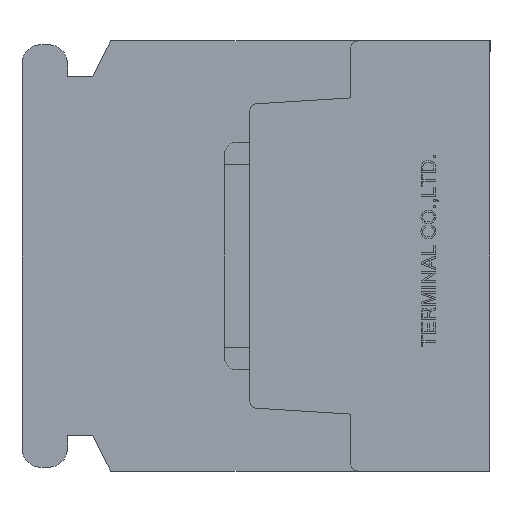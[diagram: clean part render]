
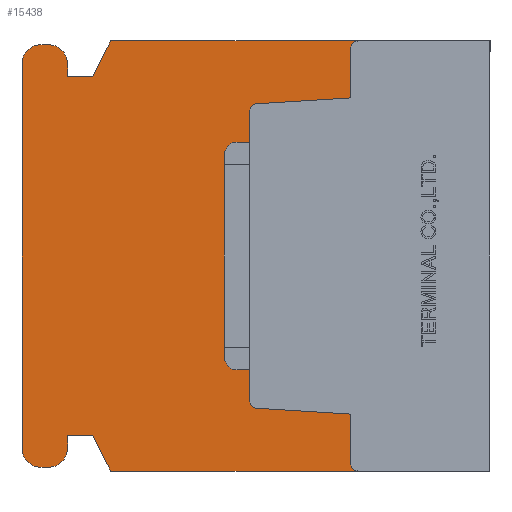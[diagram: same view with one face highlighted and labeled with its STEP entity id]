
A CAD part, left-side view. The second image highlights one B-rep face of the part: STEP entity #15438.
In plain terms, the highlighted planar face has unit normal (-1, 0, 0).
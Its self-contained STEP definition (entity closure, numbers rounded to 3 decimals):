
#959=CIRCLE('',#16394,0.3);
#961=CIRCLE('',#16398,0.3);
#963=CIRCLE('',#16403,0.3);
#965=CIRCLE('',#16406,0.3);
#974=CIRCLE('',#16563,0.75);
#975=CIRCLE('',#16564,0.75);
#976=CIRCLE('',#16565,0.75);
#977=CIRCLE('',#16566,0.75);
#1549=VERTEX_POINT('',#22091);
#1550=VERTEX_POINT('',#22093);
#1573=VERTEX_POINT('',#22143);
#1574=VERTEX_POINT('',#22145);
#2119=VERTEX_POINT('',#24019);
#2120=VERTEX_POINT('',#24020);
#2123=VERTEX_POINT('',#24028);
#2137=VERTEX_POINT('',#24058);
#2139=VERTEX_POINT('',#24064);
#2141=VERTEX_POINT('',#24070);
#2143=VERTEX_POINT('',#24076);
#2145=VERTEX_POINT('',#24085);
#2492=VERTEX_POINT('',#25627);
#2493=VERTEX_POINT('',#25629);
#2494=VERTEX_POINT('',#25631);
#2495=VERTEX_POINT('',#25633);
#2496=VERTEX_POINT('',#25635);
#2497=VERTEX_POINT('',#25637);
#2498=VERTEX_POINT('',#25639);
#2499=VERTEX_POINT('',#25641);
#2500=VERTEX_POINT('',#25643);
#2501=VERTEX_POINT('',#25645);
#2502=VERTEX_POINT('',#25647);
#2503=VERTEX_POINT('',#25649);
#3143=VECTOR('',#17650,1.);
#3168=VECTOR('',#17679,1.);
#3696=VECTOR('',#19174,1.);
#3713=VECTOR('',#19198,1.);
#3717=VECTOR('',#19209,1.);
#3720=VECTOR('',#19213,1.);
#3724=VECTOR('',#19230,1.);
#4137=VECTOR('',#19808,1.);
#4138=VECTOR('',#19809,1.);
#4139=VECTOR('',#19810,1.);
#4140=VECTOR('',#19813,1.);
#4141=VECTOR('',#19816,1.);
#4142=VECTOR('',#19819,1.);
#4143=VECTOR('',#19822,1.);
#4144=VECTOR('',#19823,1.);
#4145=VECTOR('',#19824,1.);
#4781=LINE('',#22092,#3143);
#4806=LINE('',#22144,#3168);
#5334=LINE('',#24018,#3696);
#5351=LINE('',#24057,#3713);
#5355=LINE('',#24069,#3717);
#5358=LINE('',#24075,#3720);
#5362=LINE('',#24090,#3724);
#5775=LINE('',#25626,#4137);
#5776=LINE('',#25628,#4138);
#5777=LINE('',#25630,#4139);
#5778=LINE('',#25634,#4140);
#5779=LINE('',#25638,#4141);
#5780=LINE('',#25642,#4142);
#5781=LINE('',#25646,#4143);
#5782=LINE('',#25648,#4144);
#5783=LINE('',#25650,#4145);
#6610=EDGE_CURVE('',#1549,#1550,#4781,.T.);
#6636=EDGE_CURVE('',#1573,#1574,#4806,.T.);
#7473=EDGE_CURVE('',#2119,#2120,#5334,.T.);
#7477=EDGE_CURVE('',#2123,#2119,#959,.T.);
#7492=EDGE_CURVE('',#2137,#2123,#5351,.T.);
#7495=EDGE_CURVE('',#2139,#2137,#961,.T.);
#7498=EDGE_CURVE('',#2141,#2139,#5355,.T.);
#7501=EDGE_CURVE('',#2143,#2141,#5358,.T.);
#7504=EDGE_CURVE('',#1550,#2143,#963,.T.);
#7506=EDGE_CURVE('',#2145,#1573,#965,.T.);
#7509=EDGE_CURVE('',#2120,#2145,#5362,.T.);
#8033=EDGE_CURVE('',#2492,#1549,#5775,.T.);
#8034=EDGE_CURVE('',#2493,#2492,#5776,.T.);
#8035=EDGE_CURVE('',#2494,#2493,#5777,.T.);
#8036=EDGE_CURVE('',#2495,#2494,#974,.T.);
#8037=EDGE_CURVE('',#2496,#2495,#5778,.T.);
#8038=EDGE_CURVE('',#2497,#2496,#975,.T.);
#8039=EDGE_CURVE('',#2498,#2497,#5779,.T.);
#8040=EDGE_CURVE('',#2499,#2498,#976,.T.);
#8041=EDGE_CURVE('',#2500,#2499,#5780,.T.);
#8042=EDGE_CURVE('',#2501,#2500,#977,.T.);
#8043=EDGE_CURVE('',#2502,#2501,#5781,.T.);
#8044=EDGE_CURVE('',#2503,#2502,#5782,.T.);
#8045=EDGE_CURVE('',#1574,#2503,#5783,.T.);
#12498=ORIENTED_EDGE('',*,*,#7504,.F.);
#12499=ORIENTED_EDGE('',*,*,#6610,.F.);
#12500=ORIENTED_EDGE('',*,*,#8033,.F.);
#12501=ORIENTED_EDGE('',*,*,#8034,.F.);
#12502=ORIENTED_EDGE('',*,*,#8035,.F.);
#12503=ORIENTED_EDGE('',*,*,#8036,.F.);
#12504=ORIENTED_EDGE('',*,*,#8037,.F.);
#12505=ORIENTED_EDGE('',*,*,#8038,.F.);
#12506=ORIENTED_EDGE('',*,*,#8039,.F.);
#12507=ORIENTED_EDGE('',*,*,#8040,.F.);
#12508=ORIENTED_EDGE('',*,*,#8041,.F.);
#12509=ORIENTED_EDGE('',*,*,#8042,.F.);
#12510=ORIENTED_EDGE('',*,*,#8043,.F.);
#12511=ORIENTED_EDGE('',*,*,#8044,.F.);
#12512=ORIENTED_EDGE('',*,*,#8045,.F.);
#12513=ORIENTED_EDGE('',*,*,#6636,.F.);
#12514=ORIENTED_EDGE('',*,*,#7506,.F.);
#12515=ORIENTED_EDGE('',*,*,#7509,.F.);
#12516=ORIENTED_EDGE('',*,*,#7473,.F.);
#12517=ORIENTED_EDGE('',*,*,#7477,.F.);
#12518=ORIENTED_EDGE('',*,*,#7492,.F.);
#12519=ORIENTED_EDGE('',*,*,#7495,.F.);
#12520=ORIENTED_EDGE('',*,*,#7498,.F.);
#12521=ORIENTED_EDGE('',*,*,#7501,.F.);
#13593=EDGE_LOOP('',(#12498,#12499,#12500,#12501,#12502,#12503,#12504,#12505,
#12506,#12507,#12508,#12509,#12510,#12511,#12512,#12513,#12514,#12515,#12516,
#12517,#12518,#12519,#12520,#12521));
#14565=FACE_BOUND('',#13593,.T.);
#15438=ADVANCED_FACE('',(#14565),#26364,.F.);
#16394=AXIS2_PLACEMENT_3D('',#24027,#19180,#19181);
#16398=AXIS2_PLACEMENT_3D('',#24063,#19203,#19204);
#16403=AXIS2_PLACEMENT_3D('',#24081,#19218,#19219);
#16406=AXIS2_PLACEMENT_3D('',#24084,#19224,#19225);
#16562=AXIS2_PLACEMENT_3D('',#25625,#19807,$);
#16563=AXIS2_PLACEMENT_3D('',#25632,#19811,#19812);
#16564=AXIS2_PLACEMENT_3D('',#25636,#19814,#19815);
#16565=AXIS2_PLACEMENT_3D('',#25640,#19817,#19818);
#16566=AXIS2_PLACEMENT_3D('',#25644,#19820,#19821);
#17650=DIRECTION('',(0.,-1.,0.));
#17679=DIRECTION('',(0.,1.,0.));
#19174=DIRECTION('',(0.,-0.998,-0.062));
#19180=DIRECTION('',(-1.,0.,0.));
#19181=DIRECTION('',(0.,0.,-0.3));
#19198=DIRECTION('',(0.,0.,-1.));
#19203=DIRECTION('',(-1.,0.,0.));
#19204=DIRECTION('',(0.,0.,-0.3));
#19209=DIRECTION('',(0.,0.998,-0.062));
#19213=DIRECTION('',(0.,0.,-1.));
#19218=DIRECTION('',(-1.,0.,0.));
#19219=DIRECTION('',(0.,0.,-0.3));
#19224=DIRECTION('',(-1.,0.,0.));
#19225=DIRECTION('',(0.,0.,-0.3));
#19230=DIRECTION('',(0.,0.,-1.));
#19807=DIRECTION('',(1.,0.,0.));
#19808=DIRECTION('',(0.,-0.447,0.894));
#19809=DIRECTION('',(0.,-1.,0.));
#19810=DIRECTION('',(0.,0.,-1.));
#19811=DIRECTION('',(1.,0.,0.));
#19812=DIRECTION('',(0.,0.,-0.75));
#19813=DIRECTION('',(0.,-1.,0.));
#19814=DIRECTION('',(1.,0.,0.));
#19815=DIRECTION('',(0.,0.,-0.75));
#19816=DIRECTION('',(0.,0.,1.));
#19817=DIRECTION('',(1.,0.,0.));
#19818=DIRECTION('',(0.,0.,-0.75));
#19819=DIRECTION('',(0.,1.,0.));
#19820=DIRECTION('',(1.,0.,0.));
#19821=DIRECTION('',(0.,0.,-0.75));
#19822=DIRECTION('',(0.,0.,-1.));
#19823=DIRECTION('',(0.,1.,0.));
#19824=DIRECTION('',(0.,0.447,0.894));
#22091=CARTESIAN_POINT('',(0.,15.,8.5));
#22092=CARTESIAN_POINT('',(0.,15.,8.5));
#22093=CARTESIAN_POINT('',(0.,5.2,8.5));
#22143=CARTESIAN_POINT('',(0.,5.2,-8.5));
#22144=CARTESIAN_POINT('',(0.,0.,-8.5));
#22145=CARTESIAN_POINT('',(0.,15.,-8.5));
#24018=CARTESIAN_POINT('',(0.,9.219,-6.018));
#24019=CARTESIAN_POINT('',(0.,9.219,-6.018));
#24020=CARTESIAN_POINT('',(0.,5.5,-6.25));
#24027=CARTESIAN_POINT('',(0.,9.2,-5.718));
#24028=CARTESIAN_POINT('',(0.,9.5,-5.718));
#24057=CARTESIAN_POINT('',(0.,9.5,5.718));
#24058=CARTESIAN_POINT('',(0.,9.5,5.718));
#24063=CARTESIAN_POINT('',(0.,9.2,5.718));
#24064=CARTESIAN_POINT('',(0.,9.219,6.018));
#24069=CARTESIAN_POINT('',(0.,5.5,6.25));
#24070=CARTESIAN_POINT('',(0.,5.5,6.25));
#24075=CARTESIAN_POINT('',(0.,5.5,8.2));
#24076=CARTESIAN_POINT('',(0.,5.5,8.2));
#24081=CARTESIAN_POINT('',(0.,5.2,8.2));
#24084=CARTESIAN_POINT('',(0.,5.2,-8.2));
#24085=CARTESIAN_POINT('',(0.,5.5,-8.2));
#24090=CARTESIAN_POINT('',(0.,5.5,-6.25));
#25625=CARTESIAN_POINT('',(0.,9.463,0.));
#25626=CARTESIAN_POINT('',(0.,15.7,7.1));
#25627=CARTESIAN_POINT('',(0.,15.7,7.1));
#25628=CARTESIAN_POINT('',(0.,16.7,7.1));
#25629=CARTESIAN_POINT('',(0.,16.7,7.1));
#25630=CARTESIAN_POINT('',(0.,16.7,7.6));
#25631=CARTESIAN_POINT('',(0.,16.7,7.6));
#25632=CARTESIAN_POINT('',(0.,17.45,7.6));
#25633=CARTESIAN_POINT('',(0.,17.45,8.35));
#25634=CARTESIAN_POINT('',(0.,17.75,8.35));
#25635=CARTESIAN_POINT('',(0.,17.75,8.35));
#25636=CARTESIAN_POINT('',(0.,17.75,7.6));
#25637=CARTESIAN_POINT('',(0.,18.5,7.6));
#25638=CARTESIAN_POINT('',(0.,18.5,-7.6));
#25639=CARTESIAN_POINT('',(0.,18.5,-7.6));
#25640=CARTESIAN_POINT('',(0.,17.75,-7.6));
#25641=CARTESIAN_POINT('',(0.,17.75,-8.35));
#25642=CARTESIAN_POINT('',(0.,17.45,-8.35));
#25643=CARTESIAN_POINT('',(0.,17.45,-8.35));
#25644=CARTESIAN_POINT('',(0.,17.45,-7.6));
#25645=CARTESIAN_POINT('',(0.,16.7,-7.6));
#25646=CARTESIAN_POINT('',(0.,16.7,-7.1));
#25647=CARTESIAN_POINT('',(0.,16.7,-7.1));
#25648=CARTESIAN_POINT('',(0.,15.7,-7.1));
#25649=CARTESIAN_POINT('',(0.,15.7,-7.1));
#25650=CARTESIAN_POINT('',(0.,15.,-8.5));
#26364=PLANE('',#16562);
